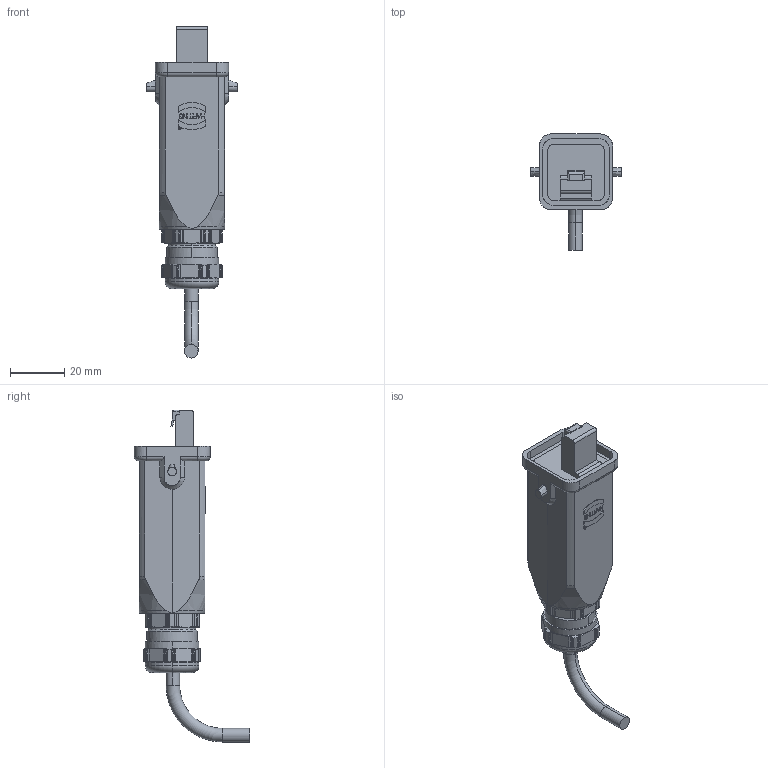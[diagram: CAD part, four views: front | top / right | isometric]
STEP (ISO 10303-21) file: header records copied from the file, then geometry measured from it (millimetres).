
FILE_DESCRIPTION (( 'STEP AP203' ), '1' );
FILE_NAME ('Asyril_RJ45 5m HAN-MODULAR CABLE_000.101.184_(option).step', '2017-07-06T09:00:13', ( 'Standard' ), ( '' ), 'SwSTEP 2.0', 'SolidWorks 2016', '' );
FILE_SCHEMA (( 'CONFIG_CONTROL_DESIGN' ));
Length unit declared in the file: millimetre
Products named in the file (1): Asyril_RJ45 5m HAN-MODULAR CABLE_000.101.184_(option)
Bounding box: 33.4 x 42.65 x 122.44 mm (x, y, z)
Volume: 42913 mm3; surface area: 10238.8 mm2
Topology: 1 solids, 1 shells, 393 faces, 1087 edges, 720 vertices
Faces by surface type: plane 185, cylinder 154, bspline 26, cone 20, torus 8
Entity records: 16159 total; most frequent: CARTESIAN_POINT 6934, ORIENTED_EDGE 2174, DIRECTION 1482, EDGE_CURVE 1087, VERTEX_POINT 720, LINE 522, VECTOR 522, AXIS2_PLACEMENT_3D 480
